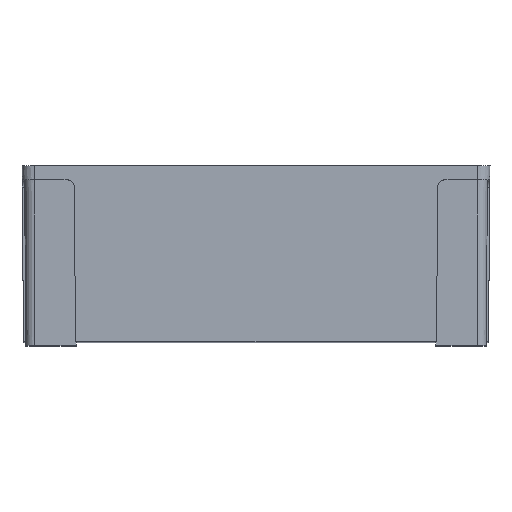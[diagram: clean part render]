
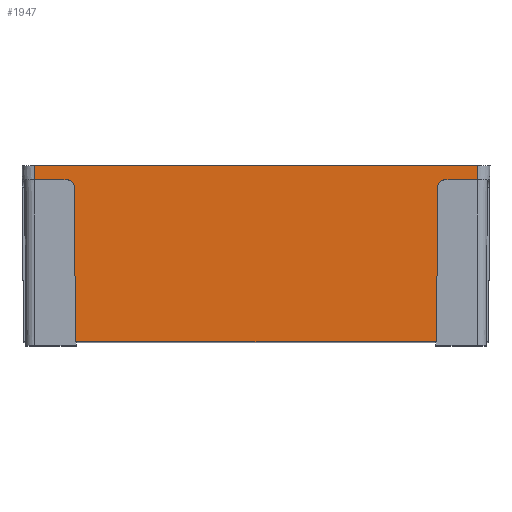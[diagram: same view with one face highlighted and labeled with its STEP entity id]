
A CAD part, top view. The second image highlights one B-rep face of the part: STEP entity #1947.
In plain terms, the highlighted planar face has unit normal (0, -0.009, 1).
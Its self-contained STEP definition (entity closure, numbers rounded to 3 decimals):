
#1839 = VERTEX_POINT ( 'NONE', #6070 ) ;
#1841 = EDGE_CURVE ( 'NONE', #1842, #1839, #6069, .T. ) ;
#1842 = VERTEX_POINT ( 'NONE', #6127 ) ;
#1947 = ADVANCED_FACE ( 'NONE', ( #6258 ), #6312, .T. ) ;
#1948 = ORIENTED_EDGE ( 'NONE', *, *, #1995, .F. ) ;
#1972 = VERTEX_POINT ( 'NONE', #6320 ) ;
#1974 = EDGE_CURVE ( 'NONE', #1972, #1975, #6319, .T. ) ;
#1975 = VERTEX_POINT ( 'NONE', #6315 ) ;
#1984 = ORIENTED_EDGE ( 'NONE', *, *, #1985, .T. ) ;
#1985 = EDGE_CURVE ( 'NONE', #1996, #1997, #6344, .T. ) ;
#1986 = ORIENTED_EDGE ( 'NONE', *, *, #1987, .F. ) ;
#1987 = EDGE_CURVE ( 'NONE', #1999, #1997, #6385, .T. ) ;
#1988 = ORIENTED_EDGE ( 'NONE', *, *, #2067, .T. ) ;
#1989 = ORIENTED_EDGE ( 'NONE', *, *, #1990, .F. ) ;
#1990 = EDGE_CURVE ( 'NONE', #1975, #2022, #6381, .T. ) ;
#1991 = ORIENTED_EDGE ( 'NONE', *, *, #1974, .F. ) ;
#1992 = ORIENTED_EDGE ( 'NONE', *, *, #1993, .T. ) ;
#1993 = EDGE_CURVE ( 'NONE', #1972, #1994, #6377, .T. ) ;
#1994 = VERTEX_POINT ( 'NONE', #6373 ) ;
#1995 = EDGE_CURVE ( 'NONE', #1996, #1839, #6372, .T. ) ;
#1996 = VERTEX_POINT ( 'NONE', #6368 ) ;
#1997 = VERTEX_POINT ( 'NONE', #6367 ) ;
#1999 = VERTEX_POINT ( 'NONE', #6361 ) ;
#2022 = VERTEX_POINT ( 'NONE', #6420 ) ;
#2023 = EDGE_LOOP ( 'NONE', ( #1948, #1984, #1986, #1988, #1989, #1991, #1992, #2068, #2071, #2054 ) ) ;
#2054 = ORIENTED_EDGE ( 'NONE', *, *, #1841, .T. ) ;
#2067 = EDGE_CURVE ( 'NONE', #1999, #2022, #6513, .T. ) ;
#2068 = ORIENTED_EDGE ( 'NONE', *, *, #2069, .T. ) ;
#2069 = EDGE_CURVE ( 'NONE', #1994, #2070, #6507, .T. ) ;
#2070 = VERTEX_POINT ( 'NONE', #6553 ) ;
#2071 = ORIENTED_EDGE ( 'NONE', *, *, #2072, .F. ) ;
#2072 = EDGE_CURVE ( 'NONE', #1842, #2070, #6552, .T. ) ;
#5777 = CARTESIAN_POINT ( 'NONE',  ( -50.533, -5.983, 89.998 ) ) ;
#6068 = CARTESIAN_POINT ( 'NONE',  ( -61.55, -49., 89.622 ) ) ;
#6069 = LINE ( 'NONE', #6068, #6129 ) ;
#6070 = CARTESIAN_POINT ( 'NONE',  ( 50.157, -49., 89.622 ) ) ;
#6127 = CARTESIAN_POINT ( 'NONE',  ( -50.157, -49., 89.622 ) ) ;
#6128 = DIRECTION ( 'NONE',  ( 1., 0., 0. ) ) ;
#6129 = VECTOR ( 'NONE', #6128, 1000. ) ;
#6258 = FACE_OUTER_BOUND ( 'NONE', #2023, .T. ) ;
#6308 = DIRECTION ( 'NONE',  ( 0., -1., -0.009 ) ) ;
#6309 = DIRECTION ( 'NONE',  ( 0., -0.009, 1. ) ) ;
#6310 = CARTESIAN_POINT ( 'NONE',  ( -61.55, 0., 90.05 ) ) ;
#6311 = AXIS2_PLACEMENT_3D ( 'NONE', #6310, #6309, #6308 ) ;
#6312 = PLANE ( 'NONE',  #6311 ) ;
#6315 = CARTESIAN_POINT ( 'NONE',  ( -61.55, 0., 90.05 ) ) ;
#6316 = DIRECTION ( 'NONE',  ( 0., 1., 0.009 ) ) ;
#6317 = VECTOR ( 'NONE', #6316, 1000. ) ;
#6318 = CARTESIAN_POINT ( 'NONE',  ( -61.55, 0., 90.05 ) ) ;
#6319 = LINE ( 'NONE', #6318, #6317 ) ;
#6320 = CARTESIAN_POINT ( 'NONE',  ( -61.55, -4., 90.015 ) ) ;
#6343 = CARTESIAN_POINT ( 'NONE',  ( 50.533, -5.983, 89.998 ) ) ;
#6344 =( BOUNDED_CURVE ( )  B_SPLINE_CURVE ( 3, ( #6343, #6388, #6387, #6386 ),
 .UNSPECIFIED., .F., .T. ) 
 B_SPLINE_CURVE_WITH_KNOTS ( ( 4, 4 ),
 ( 1.58, 3.142 ),
 .UNSPECIFIED. ) 
 CURVE ( )  GEOMETRIC_REPRESENTATION_ITEM ( )  RATIONAL_B_SPLINE_CURVE ( ( 1., 0.807, 0.807, 1. ) ) 
 REPRESENTATION_ITEM ( '' )  );
#6361 = CARTESIAN_POINT ( 'NONE',  ( 61.55, -4., 90.015 ) ) ;
#6367 = CARTESIAN_POINT ( 'NONE',  ( 52.533, -4., 90.015 ) ) ;
#6368 = CARTESIAN_POINT ( 'NONE',  ( 50.533, -5.983, 89.998 ) ) ;
#6369 = DIRECTION ( 'NONE',  ( -0.009, -1., -0.009 ) ) ;
#6370 = VECTOR ( 'NONE', #6369, 1000. ) ;
#6371 = CARTESIAN_POINT ( 'NONE',  ( 50.576, -0.978, 90.041 ) ) ;
#6372 = LINE ( 'NONE', #6371, #6370 ) ;
#6373 = CARTESIAN_POINT ( 'NONE',  ( -52.533, -4., 90.015 ) ) ;
#6374 = DIRECTION ( 'NONE',  ( 1., 0., 0. ) ) ;
#6375 = VECTOR ( 'NONE', #6374, 1000. ) ;
#6376 = CARTESIAN_POINT ( 'NONE',  ( -61.55, -4., 90.015 ) ) ;
#6377 = LINE ( 'NONE', #6376, #6375 ) ;
#6378 = DIRECTION ( 'NONE',  ( 1., 0., 0. ) ) ;
#6379 = VECTOR ( 'NONE', #6378, 1000. ) ;
#6380 = CARTESIAN_POINT ( 'NONE',  ( -61.55, 0., 90.05 ) ) ;
#6381 = LINE ( 'NONE', #6380, #6379 ) ;
#6382 = DIRECTION ( 'NONE',  ( -1., 0., 0. ) ) ;
#6383 = VECTOR ( 'NONE', #6382, 1000. ) ;
#6384 = CARTESIAN_POINT ( 'NONE',  ( -61.55, -4., 90.015 ) ) ;
#6385 = LINE ( 'NONE', #6384, #6383 ) ;
#6386 = CARTESIAN_POINT ( 'NONE',  ( 52.533, -4., 90.015 ) ) ;
#6387 = CARTESIAN_POINT ( 'NONE',  ( 51.369, -4., 90.015 ) ) ;
#6388 = CARTESIAN_POINT ( 'NONE',  ( 50.543, -4.819, 90.008 ) ) ;
#6420 = CARTESIAN_POINT ( 'NONE',  ( 61.55, 0., 90.05 ) ) ;
#6503 = CARTESIAN_POINT ( 'NONE',  ( -50.543, -4.819, 90.008 ) ) ;
#6504 = CARTESIAN_POINT ( 'NONE',  ( -51.369, -4., 90.015 ) ) ;
#6505 = CARTESIAN_POINT ( 'NONE',  ( -52.533, -4., 90.015 ) ) ;
#6507 =( BOUNDED_CURVE ( )  B_SPLINE_CURVE ( 3, ( #6505, #6504, #6503, #5777 ),
 .UNSPECIFIED., .F., .T. ) 
 B_SPLINE_CURVE_WITH_KNOTS ( ( 4, 4 ),
 ( 3.142, 4.704 ),
 .UNSPECIFIED. ) 
 CURVE ( )  GEOMETRIC_REPRESENTATION_ITEM ( )  RATIONAL_B_SPLINE_CURVE ( ( 1., 0.807, 0.807, 1. ) ) 
 REPRESENTATION_ITEM ( '' )  );
#6510 = DIRECTION ( 'NONE',  ( 0., 1., 0.009 ) ) ;
#6511 = VECTOR ( 'NONE', #6510, 1000. ) ;
#6512 = CARTESIAN_POINT ( 'NONE',  ( 61.55, 0., 90.05 ) ) ;
#6513 = LINE ( 'NONE', #6512, #6511 ) ;
#6549 = DIRECTION ( 'NONE',  ( -0.009, 1., 0.009 ) ) ;
#6550 = VECTOR ( 'NONE', #6549, 1000. ) ;
#6551 = CARTESIAN_POINT ( 'NONE',  ( -50.586, 0.096, 90.051 ) ) ;
#6552 = LINE ( 'NONE', #6551, #6550 ) ;
#6553 = CARTESIAN_POINT ( 'NONE',  ( -50.533, -5.983, 89.998 ) ) ;
